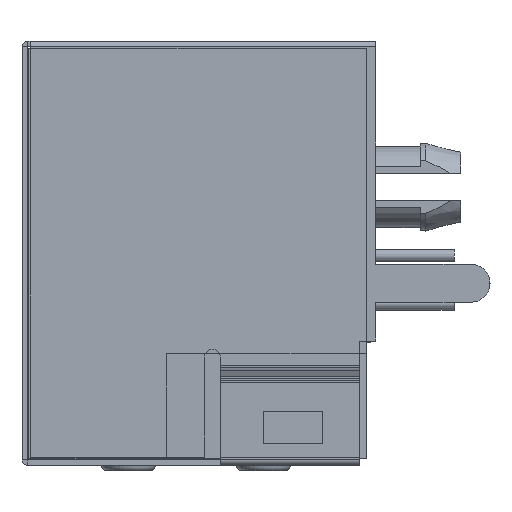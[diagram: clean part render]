
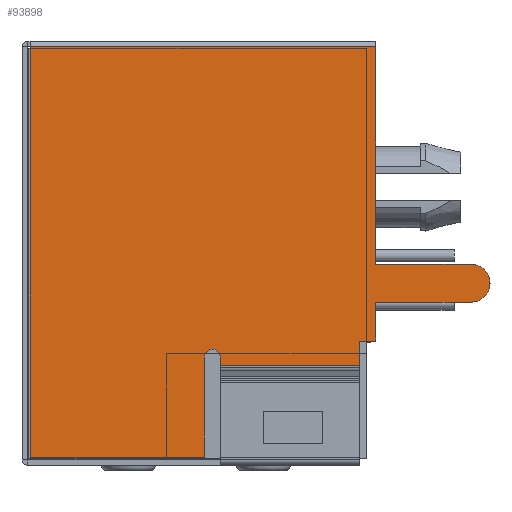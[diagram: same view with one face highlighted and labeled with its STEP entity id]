
A CAD part, left-side view. The second image highlights one B-rep face of the part: STEP entity #93898.
In plain terms, the highlighted planar face has unit normal (-1, 0, 0).
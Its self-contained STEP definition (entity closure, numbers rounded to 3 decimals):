
#79412=DIRECTION('',(0.,-1.,0.));
#79413=VECTOR('',#79412,12.8);
#79414=CARTESIAN_POINT('',(-63.5,13.1,-7.65));
#79415=LINE('',#79414,#79413);
#79433=DIRECTION('',(0.,0.,1.));
#79434=VECTOR('',#79433,8.06);
#79435=CARTESIAN_POINT('',(-63.5,13.1,-7.65));
#79436=LINE('',#79435,#79434);
#79437=DIRECTION('',(0.,1.,0.));
#79438=VECTOR('',#79437,3.53);
#79439=CARTESIAN_POINT('',(-63.5,13.1,0.41));
#79440=LINE('',#79439,#79438);
#79441=CARTESIAN_POINT('',(-63.5,16.63,1.11));
#79442=DIRECTION('',(1.,0.,0.));
#79443=DIRECTION('',(0.,0.,-1.));
#79444=AXIS2_PLACEMENT_3D('',#79441,#79442,#79443);
#79446=DIRECTION('',(0.,-1.,0.));
#79447=VECTOR('',#79446,3.53);
#79448=CARTESIAN_POINT('',(-63.5,16.63,1.81));
#79449=LINE('',#79448,#79447);
#79450=DIRECTION('',(0.,0.,1.));
#79451=VECTOR('',#79450,1.44);
#79452=CARTESIAN_POINT('',(-63.5,13.1,1.81));
#79453=LINE('',#79452,#79451);
#79454=DIRECTION('',(0.,0.,1.));
#79455=VECTOR('',#79454,0.906);
#79456=CARTESIAN_POINT('',(-63.5,12.5,3.25));
#79457=LINE('',#79456,#79455);
#79458=CARTESIAN_POINT('',(-63.5,7.05,3.85));
#79459=DIRECTION('',(-1.,0.,0.));
#79460=DIRECTION('',(0.,1.,0.));
#79461=AXIS2_PLACEMENT_3D('',#79458,#79459,#79460);
#79463=DIRECTION('',(0.,0.,1.));
#79464=VECTOR('',#79463,3.7);
#79465=CARTESIAN_POINT('',(-63.5,6.75,3.85));
#79466=LINE('',#79465,#79464);
#79467=DIRECTION('',(0.,-1.,0.));
#79468=VECTOR('',#79467,6.45);
#79469=CARTESIAN_POINT('',(-63.5,6.75,7.55));
#79470=LINE('',#79469,#79468);
#79471=DIRECTION('',(0.,0.,-1.));
#79472=VECTOR('',#79471,15.2);
#79473=CARTESIAN_POINT('',(-63.5,0.3,7.55));
#79474=LINE('',#79473,#79472);
#79529=DIRECTION('',(0.,0.,1.));
#79530=VECTOR('',#79529,0.306);
#79531=CARTESIAN_POINT('',(-63.5,7.35,3.85));
#79532=LINE('',#79531,#79530);
#79555=DIRECTION('',(0.,1.,0.));
#79556=VECTOR('',#79555,5.15);
#79557=CARTESIAN_POINT('',(-63.5,7.35,4.156));
#79558=LINE('',#79557,#79556);
#79581=DIRECTION('',(0.,1.,0.));
#79582=VECTOR('',#79581,0.6);
#79583=CARTESIAN_POINT('',(-63.5,12.5,3.25));
#79584=LINE('',#79583,#79582);
#80907=CARTESIAN_POINT('',(-63.5,13.1,-7.65));
#80908=VERTEX_POINT('',#80907);
#80909=CARTESIAN_POINT('',(-63.5,0.3,-7.65));
#80910=VERTEX_POINT('',#80909);
#80911=CARTESIAN_POINT('',(-63.5,0.3,7.55));
#80912=VERTEX_POINT('',#80911);
#80915=CARTESIAN_POINT('',(-63.5,13.1,0.41));
#80916=VERTEX_POINT('',#80915);
#80917=CARTESIAN_POINT('',(-63.5,16.63,0.41));
#80918=VERTEX_POINT('',#80917);
#80919=CARTESIAN_POINT('',(-63.5,16.63,1.81));
#80920=VERTEX_POINT('',#80919);
#80921=CARTESIAN_POINT('',(-63.5,13.1,1.81));
#80922=VERTEX_POINT('',#80921);
#80923=CARTESIAN_POINT('',(-63.5,13.1,3.25));
#80924=VERTEX_POINT('',#80923);
#80925=CARTESIAN_POINT('',(-63.5,12.5,3.25));
#80926=VERTEX_POINT('',#80925);
#80927=CARTESIAN_POINT('',(-63.5,12.5,4.156));
#80928=VERTEX_POINT('',#80927);
#80929=CARTESIAN_POINT('',(-63.5,7.35,4.156));
#80930=VERTEX_POINT('',#80929);
#80931=CARTESIAN_POINT('',(-63.5,7.35,3.85));
#80932=VERTEX_POINT('',#80931);
#80933=CARTESIAN_POINT('',(-63.5,6.75,3.85));
#80934=VERTEX_POINT('',#80933);
#80935=CARTESIAN_POINT('',(-63.5,6.75,7.55));
#80936=VERTEX_POINT('',#80935);
#93865=CARTESIAN_POINT('',(-63.5,3.265,-7.85));
#93866=DIRECTION('',(-1.,0.,0.));
#93867=DIRECTION('',(0.,-1.,0.));
#93868=AXIS2_PLACEMENT_3D('',#93865,#93866,#93867);
#93869=PLANE('',#93868);
#93871=ORIENTED_EDGE('',*,*,#93870,.T.);
#93873=ORIENTED_EDGE('',*,*,#93872,.T.);
#93875=ORIENTED_EDGE('',*,*,#93874,.T.);
#93877=ORIENTED_EDGE('',*,*,#93876,.T.);
#93879=ORIENTED_EDGE('',*,*,#93878,.T.);
#93881=ORIENTED_EDGE('',*,*,#93880,.F.);
#93883=ORIENTED_EDGE('',*,*,#93882,.T.);
#93885=ORIENTED_EDGE('',*,*,#93884,.F.);
#93887=ORIENTED_EDGE('',*,*,#93886,.F.);
#93889=ORIENTED_EDGE('',*,*,#93888,.T.);
#93891=ORIENTED_EDGE('',*,*,#93890,.T.);
#93893=ORIENTED_EDGE('',*,*,#93892,.T.);
#93894=ORIENTED_EDGE('',*,*,#93855,.T.);
#93895=ORIENTED_EDGE('',*,*,#93833,.F.);
#93896=EDGE_LOOP('',(#93871,#93873,#93875,#93877,#93879,#93881,#93883,#93885,
#93887,#93889,#93891,#93893,#93894,#93895));
#93897=FACE_OUTER_BOUND('',#93896,.F.);
#93898=ADVANCED_FACE('',(#93897),#93869,.T.);
#79445=CIRCLE('',#79444,0.7);
#79462=CIRCLE('',#79461,0.3);
#93833=EDGE_CURVE('',#80908,#80910,#79415,.T.);
#93855=EDGE_CURVE('',#80912,#80910,#79474,.T.);
#93870=EDGE_CURVE('',#80908,#80916,#79436,.T.);
#93872=EDGE_CURVE('',#80916,#80918,#79440,.T.);
#93874=EDGE_CURVE('',#80918,#80920,#79445,.T.);
#93876=EDGE_CURVE('',#80920,#80922,#79449,.T.);
#93878=EDGE_CURVE('',#80922,#80924,#79453,.T.);
#93880=EDGE_CURVE('',#80926,#80924,#79584,.T.);
#93882=EDGE_CURVE('',#80926,#80928,#79457,.T.);
#93884=EDGE_CURVE('',#80930,#80928,#79558,.T.);
#93886=EDGE_CURVE('',#80932,#80930,#79532,.T.);
#93888=EDGE_CURVE('',#80932,#80934,#79462,.T.);
#93890=EDGE_CURVE('',#80934,#80936,#79466,.T.);
#93892=EDGE_CURVE('',#80936,#80912,#79470,.T.);
